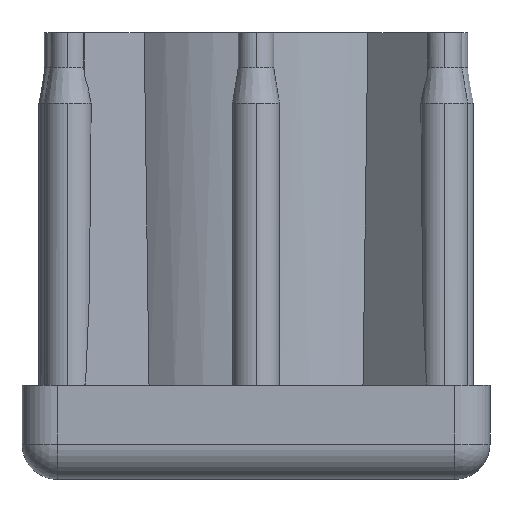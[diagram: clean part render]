
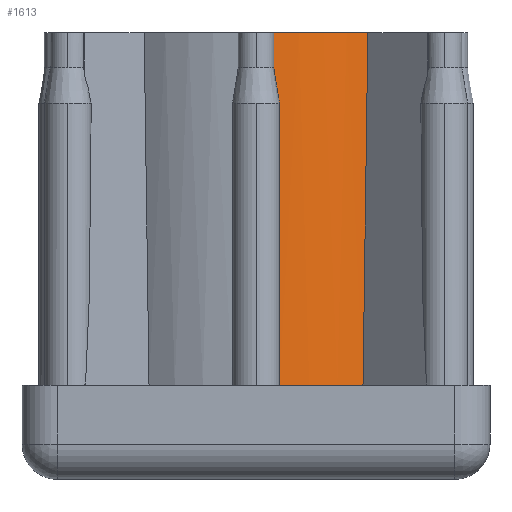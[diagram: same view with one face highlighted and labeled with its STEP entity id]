
A CAD part, left-side view. The second image highlights one B-rep face of the part: STEP entity #1613.
In plain terms, the highlighted cylindrical face has radius 15 mm (diameter 30 mm), a partial arc.
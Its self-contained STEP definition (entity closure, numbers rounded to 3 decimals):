
#342 = CARTESIAN_POINT ( 'NONE',  ( -11.599, -9.511, 30. ) ) ;
#437 = DIRECTION ( 'NONE',  ( 0., 0., 1. ) ) ;
#575 = CARTESIAN_POINT ( 'NONE',  ( -11.71, -9.375, 19.98 ) ) ;
#657 = VERTEX_POINT ( 'NONE', #1051 ) ;
#667 = CARTESIAN_POINT ( 'NONE',  ( -14.91, -1.651, 19.98 ) ) ;
#698 =( BOUNDED_CURVE ( )  B_SPLINE_CURVE ( 3, ( #3871, #4575, #667, #3146 ),
 .UNSPECIFIED., .F., .T. ) 
 B_SPLINE_CURVE_WITH_KNOTS ( ( 4, 4 ),
 ( -1., 0. ),
 .UNSPECIFIED. ) 
 CURVE ( )  GEOMETRIC_REPRESENTATION_ITEM ( )  RATIONAL_B_SPLINE_CURVE ( ( 1., 1., 1., 1. ) ) 
 REPRESENTATION_ITEM ( '' )  );
#861 = CARTESIAN_POINT ( 'NONE',  ( 0., 0., 0. ) ) ;
#867 = EDGE_CURVE ( 'NONE', #4104, #4462, #2357, .T. ) ;
#875 = AXIS2_PLACEMENT_3D ( 'NONE', #861, #1578, #3328 ) ;
#931 = CARTESIAN_POINT ( 'NONE',  ( -11.82, -9.237, 9.979 ) ) ;
#1051 = CARTESIAN_POINT ( 'NONE',  ( -14.927, -1.476, 30. ) ) ;
#1073 = EDGE_LOOP ( 'NONE', ( #3545, #2213, #3459, #3806 ) ) ;
#1105 = AXIS2_PLACEMENT_3D ( 'NONE', #4083, #3397, #1602 ) ;
#1429 = EDGE_CURVE ( 'NONE', #4104, #657, #698, .T. ) ;
#1460 = CARTESIAN_POINT ( 'NONE',  ( 0., 0., 30. ) ) ;
#1478 = VERTEX_POINT ( 'NONE', #342 ) ;
#1578 = DIRECTION ( 'NONE',  ( 0., 0., 1. ) ) ;
#1602 = DIRECTION ( 'NONE',  ( -1., 0., 0. ) ) ;
#1613 = ADVANCED_FACE ( 'NONE', ( #2242 ), #4301, .T. ) ;
#1698 = CARTESIAN_POINT ( 'NONE',  ( -11.926, -9.098, 0. ) ) ;
#1723 = CIRCLE ( 'NONE', #2746, 15. ) ;
#1991 = CARTESIAN_POINT ( 'NONE',  ( -11.599, -9.511, 30. ) ) ;
#2213 = ORIENTED_EDGE ( 'NONE', *, *, #867, .T. ) ;
#2242 = FACE_OUTER_BOUND ( 'NONE', #1073, .T. ) ;
#2357 = CIRCLE ( 'NONE', #875, 15. ) ;
#2422 = EDGE_CURVE ( 'NONE', #1478, #4462, #2502, .T. ) ;
#2502 =( BOUNDED_CURVE ( )  B_SPLINE_CURVE ( 3, ( #1991, #575, #931, #3719 ),
 .UNSPECIFIED., .F., .F. ) 
 B_SPLINE_CURVE_WITH_KNOTS ( ( 4, 4 ),
 ( -1., 0. ),
 .UNSPECIFIED. ) 
 CURVE ( )  GEOMETRIC_REPRESENTATION_ITEM ( )  RATIONAL_B_SPLINE_CURVE ( ( 1., 1., 1., 1. ) ) 
 REPRESENTATION_ITEM ( '' )  );
#2746 = AXIS2_PLACEMENT_3D ( 'NONE', #1460, #437, #3571 ) ;
#3146 = CARTESIAN_POINT ( 'NONE',  ( -14.927, -1.476, 30. ) ) ;
#3328 = DIRECTION ( 'NONE',  ( 1., 0., 0. ) ) ;
#3397 = DIRECTION ( 'NONE',  ( 0., 0., -1. ) ) ;
#3459 = ORIENTED_EDGE ( 'NONE', *, *, #2422, .F. ) ;
#3545 = ORIENTED_EDGE ( 'NONE', *, *, #1429, .F. ) ;
#3571 = DIRECTION ( 'NONE',  ( 1., 0., 0. ) ) ;
#3719 = CARTESIAN_POINT ( 'NONE',  ( -11.926, -9.098, 0. ) ) ;
#3806 = ORIENTED_EDGE ( 'NONE', *, *, #4115, .F. ) ;
#3871 = CARTESIAN_POINT ( 'NONE',  ( -14.866, -2., 0. ) ) ;
#3971 = CARTESIAN_POINT ( 'NONE',  ( -14.866, -2., 0. ) ) ;
#4083 = CARTESIAN_POINT ( 'NONE',  ( 0., 0., 30. ) ) ;
#4104 = VERTEX_POINT ( 'NONE', #3971 ) ;
#4115 = EDGE_CURVE ( 'NONE', #657, #1478, #1723, .T. ) ;
#4301 = CYLINDRICAL_SURFACE ( 'NONE', #1105, 15. ) ;
#4462 = VERTEX_POINT ( 'NONE', #1698 ) ;
#4575 = CARTESIAN_POINT ( 'NONE',  ( -14.89, -1.826, 9.979 ) ) ;
